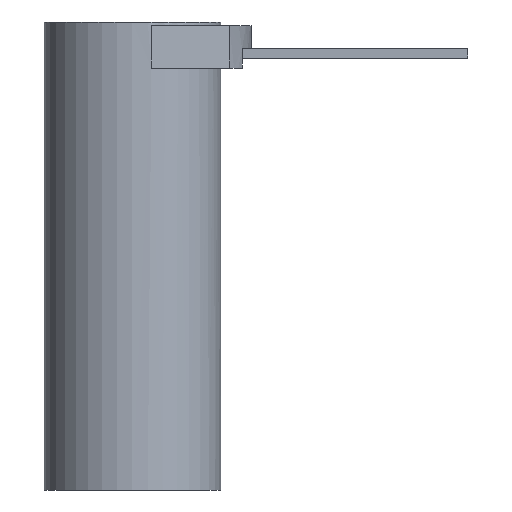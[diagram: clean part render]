
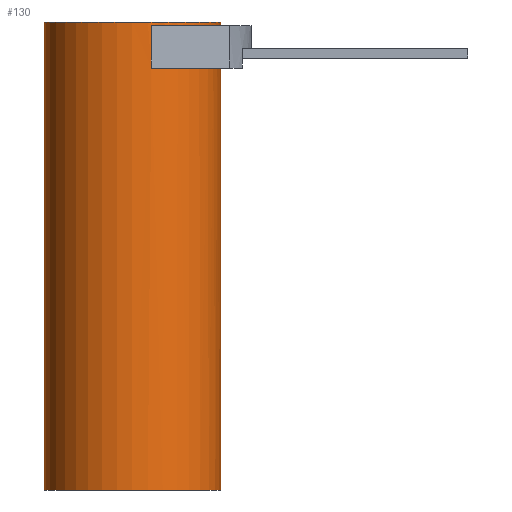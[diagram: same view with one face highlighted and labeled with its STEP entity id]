
A CAD part, front view. The second image highlights one B-rep face of the part: STEP entity #130.
In plain terms, the highlighted cylindrical face has radius 11.5 mm (diameter 23 mm), a partial arc.
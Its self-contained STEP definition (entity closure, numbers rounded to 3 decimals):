
#113=CYLINDRICAL_SURFACE('',#597,11.5);
#130=ADVANCED_FACE('',(#175),#113,.T.);
#175=FACE_OUTER_BOUND('',#198,.T.);
#198=EDGE_LOOP('',(#301,#302,#303,#304,#305,#306,#307,#308,#309,#310));
#224=CIRCLE('',#577,11.5);
#225=CIRCLE('',#580,11.5);
#230=CIRCLE('',#590,11.5);
#233=CIRCLE('',#595,11.5);
#234=CIRCLE('',#596,11.5);
#301=ORIENTED_EDGE('',*,*,#452,.F.);
#302=ORIENTED_EDGE('',*,*,#457,.F.);
#303=ORIENTED_EDGE('',*,*,#458,.T.);
#304=ORIENTED_EDGE('',*,*,#455,.T.);
#305=ORIENTED_EDGE('',*,*,#459,.F.);
#306=ORIENTED_EDGE('',*,*,#453,.F.);
#307=ORIENTED_EDGE('',*,*,#438,.F.);
#308=ORIENTED_EDGE('',*,*,#435,.F.);
#309=ORIENTED_EDGE('',*,*,#434,.F.);
#310=ORIENTED_EDGE('',*,*,#448,.F.);
#388=VERTEX_POINT('',#794);
#390=VERTEX_POINT('',#798);
#391=VERTEX_POINT('',#802);
#393=VERTEX_POINT('',#808);
#398=VERTEX_POINT('',#825);
#400=VERTEX_POINT('',#833);
#401=VERTEX_POINT('',#837);
#402=VERTEX_POINT('',#839);
#403=VERTEX_POINT('',#841);
#404=VERTEX_POINT('',#843);
#434=EDGE_CURVE('',#390,#388,#224,.T.);
#435=EDGE_CURVE('',#388,#391,#498,.T.);
#438=EDGE_CURVE('',#391,#393,#225,.T.);
#448=EDGE_CURVE('',#398,#390,#508,.T.);
#452=EDGE_CURVE('',#400,#398,#230,.T.);
#453=EDGE_CURVE('',#393,#401,#510,.T.);
#455=EDGE_CURVE('',#403,#402,#511,.T.);
#457=EDGE_CURVE('',#404,#400,#512,.T.);
#458=EDGE_CURVE('',#404,#403,#233,.T.);
#459=EDGE_CURVE('',#401,#402,#234,.T.);
#498=LINE('',#801,#537);
#508=LINE('',#827,#547);
#510=LINE('',#836,#549);
#511=LINE('',#840,#550);
#512=LINE('',#844,#551);
#537=VECTOR('',#647,1.);
#547=VECTOR('',#671,1.);
#549=VECTOR('',#685,1.);
#550=VECTOR('',#688,1.);
#551=VECTOR('',#691,1.);
#577=AXIS2_PLACEMENT_3D('',#799,#643,#644);
#580=AXIS2_PLACEMENT_3D('',#807,#652,#653);
#590=AXIS2_PLACEMENT_3D('',#834,#681,#682);
#595=AXIS2_PLACEMENT_3D('',#846,#694,#695);
#596=AXIS2_PLACEMENT_3D('',#847,#696,#697);
#597=AXIS2_PLACEMENT_3D('',#848,#698,#699);
#643=DIRECTION('',(0.,0.,1.));
#644=DIRECTION('',(-1.,0.,0.));
#647=DIRECTION('',(0.,0.,1.));
#652=DIRECTION('',(0.,0.,1.));
#653=DIRECTION('',(0.565,-0.825,0.));
#671=DIRECTION('',(0.,0.,-1.));
#681=DIRECTION('',(0.,0.,-1.));
#682=DIRECTION('',(-1.,0.,0.));
#685=DIRECTION('',(0.,0.,-1.));
#688=DIRECTION('',(0.,0.,-1.));
#691=DIRECTION('',(0.,0.,-1.));
#694=DIRECTION('',(0.,0.,-1.));
#695=DIRECTION('',(0.,1.,0.));
#696=DIRECTION('',(0.,0.,-1.));
#697=DIRECTION('',(0.,1.,0.));
#698=DIRECTION('',(0.,0.,-1.));
#699=DIRECTION('',(0.,-1.,0.));
#794=CARTESIAN_POINT('',(9.811,-6.,55.));
#798=CARTESIAN_POINT('',(2.47,-11.232,55.));
#799=CARTESIAN_POINT('',(0.,0.,55.));
#801=CARTESIAN_POINT('',(9.811,-6.,54.98));
#802=CARTESIAN_POINT('',(9.811,-6.,57.5));
#807=CARTESIAN_POINT('',(0.,0.,57.5));
#808=CARTESIAN_POINT('',(11.5,0.,57.5));
#825=CARTESIAN_POINT('',(2.47,-11.232,60.5));
#827=CARTESIAN_POINT('',(2.47,-11.232,61.02));
#833=CARTESIAN_POINT('',(11.5,0.,60.5));
#834=CARTESIAN_POINT('',(0.,0.,60.5));
#836=CARTESIAN_POINT('',(11.5,0.,0.));
#837=CARTESIAN_POINT('',(11.5,0.,0.));
#839=CARTESIAN_POINT('',(-11.5,0.,0.));
#840=CARTESIAN_POINT('',(-11.5,0.,0.));
#841=CARTESIAN_POINT('',(-11.5,0.,61.));
#843=CARTESIAN_POINT('',(11.5,0.,61.));
#844=CARTESIAN_POINT('',(11.5,0.,0.));
#846=CARTESIAN_POINT('',(0.,0.,61.));
#847=CARTESIAN_POINT('',(0.,0.,0.));
#848=CARTESIAN_POINT('',(0.,0.,61.));
